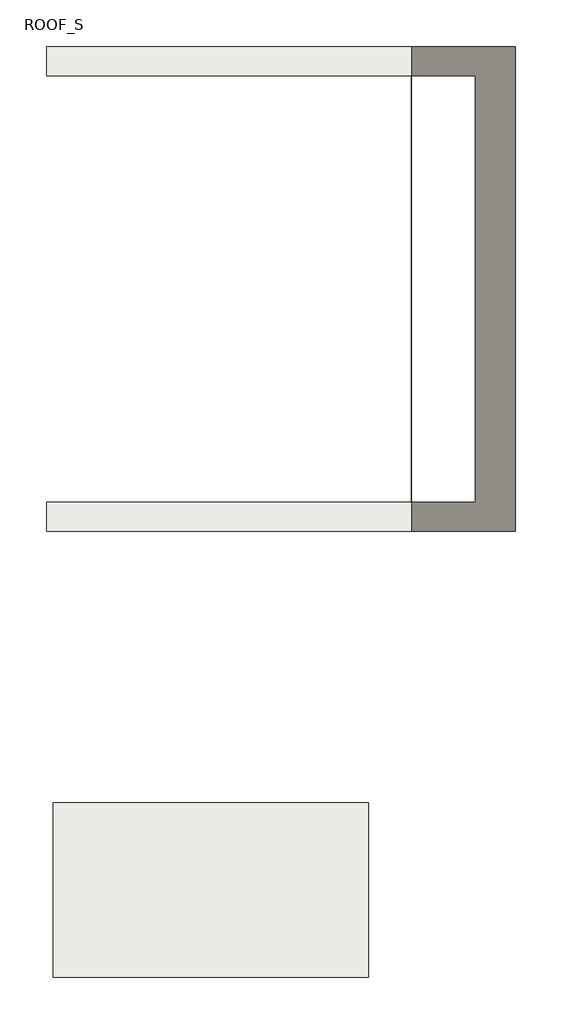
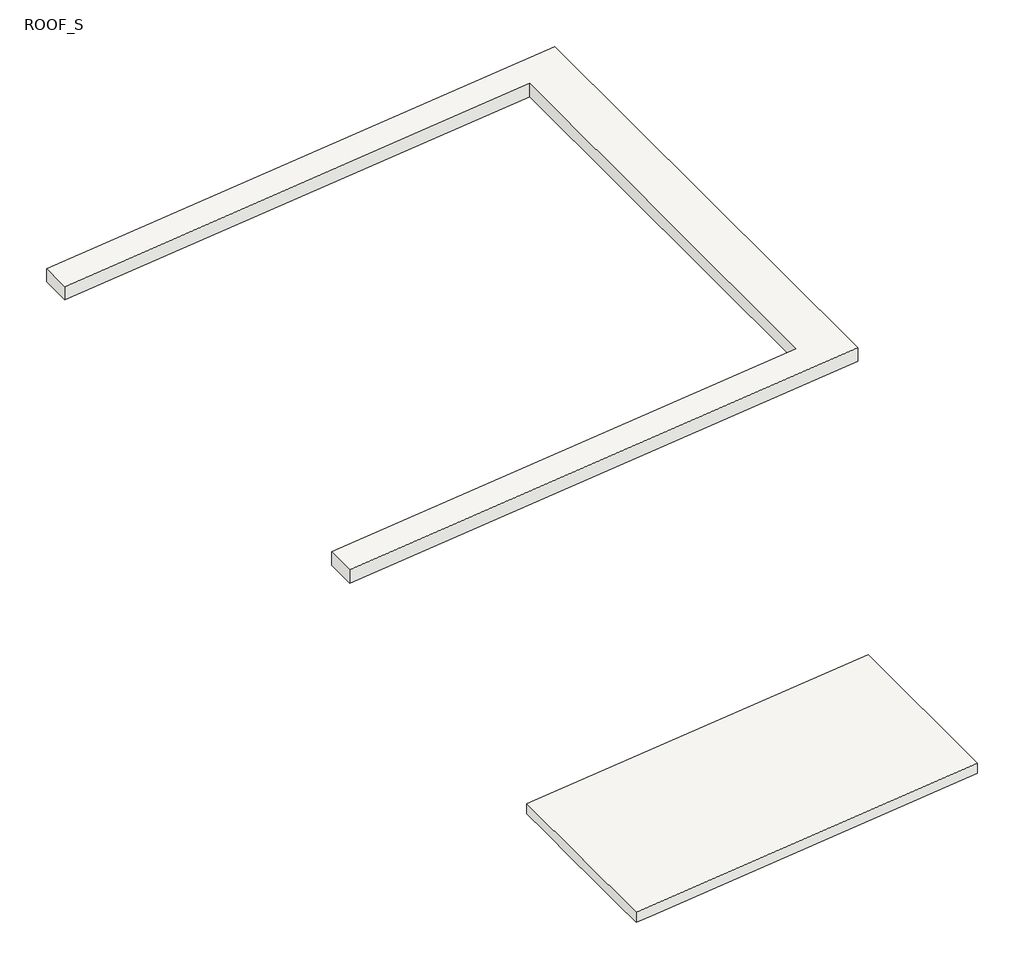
# One storey: 2 slabs.
"""IFC4 building model written with IfcOpenShell, lengths in millimetres."""

from ifc_helpers import new_model, si_unit, origin, place, context, project, spatial, faceted_brep, element, save

model = new_model("IFC4")

# Units and contexts
model_context = context("Model", 3, world=origin())
ifc_project = project(units=[si_unit("LENGTHUNIT", "METRE", prefix="MILLI")], contexts=[model_context])

# Site, building, storey
site = spatial("IfcSite", under=ifc_project)
building = spatial("IfcBuilding", under=site)
storey = spatial("IfcBuildingStorey", under=building, Name="ROOF_S", Elevation=38595.3)

# Slabs
placement = place(None, origin())
element("IfcSlab", 1, ObjectType="A_structure", at=placement, inside=storey, context=model_context, shape_type="Brep", body=[
    faceted_brep([(-21610.0591382, 21759.2695005, 38102.0297238), (-6860.2204607, 21759.2695005, 39751.8390988), (-6860.2204607, 6519.2695005, 39751.8390988), (-21610.0591382, 6519.2695005, 38102.0297238), (-21610.0591382, 7433.6695005, 38102.0297238), (-8114.3454607, 7433.6695005, 39611.5618234), (-8114.3454607, 20844.8695005, 39611.5618234), (-21610.0591382, 20844.8695005, 38102.0297238), (-21610.0591382, 21759.2695005, 38510.9640625), (-21610.0591382, 20844.8695005, 38510.9640625), (-8114.3454607, 20844.8695005, 40020.4961621), (-8114.3454607, 7433.6695005, 40020.4961621), (-21610.0591382, 7433.6695005, 38510.9640625), (-21610.0591382, 6519.2695005, 38510.9640625), (-6860.2204607, 6519.2695005, 40160.7734375), (-6860.2204607, 21759.2695005, 40160.7734375)], [[[0, 1, 2, 3, 4, 5, 6, 7]], [[8, 9, 10, 11, 12, 13, 14, 15]], [[1, 0, 8, 15]], [[2, 1, 15, 14]], [[3, 2, 14, 13]], [[4, 3, 13, 12]], [[5, 4, 12, 11]], [[6, 5, 11, 10]], [[7, 6, 10, 9]], [[0, 7, 9, 8]]]),
])
element("IfcSlab", 2, ObjectType="B_structure", at=placement, inside=storey, context=model_context, shape_type="Brep", body=[
    faceted_brep([(-11485.0467002, -2015.1304995, 37228.5462951), (-11485.0467002, -7501.5304995, 37228.5462951), (-20943.7483082, -7501.5304995, 36170.6135377), (-21392.0570572, -7501.5304995, 36120.4712951), (-21392.0570572, -6587.1304995, 36120.4712951), (-21392.0570572, -5215.5304995, 36120.4712951), (-21392.0570572, -4301.1304995, 36120.4712951), (-21392.0570572, -2929.5304995, 36120.4712951), (-21392.0570572, -2015.1304995, 36120.4712951), (-20943.7483082, -2015.1304995, 36170.6135377), (-11485.0467002, -2015.1304995, 37535.246875), (-21392.0570572, -2015.1304995, 36427.171875), (-21392.0570572, -7501.5304995, 36427.171875), (-11485.0467002, -7501.5304995, 37535.246875), (-21392.0570572, -7501.5304995, 36402.3024462), (-21392.0570572, -2015.1304995, 36402.3024462)], [[[0, 1, 2, 3, 4, 5, 6, 7, 8, 9]], [[10, 11, 12, 13]], [[1, 0, 10, 13]], [[3, 2, 1, 13, 12, 14]], [[8, 7, 6, 5, 4, 3, 14, 12, 11, 15]], [[0, 9, 8, 15, 11, 10]]]),
])

save(model, "model.ifc")
